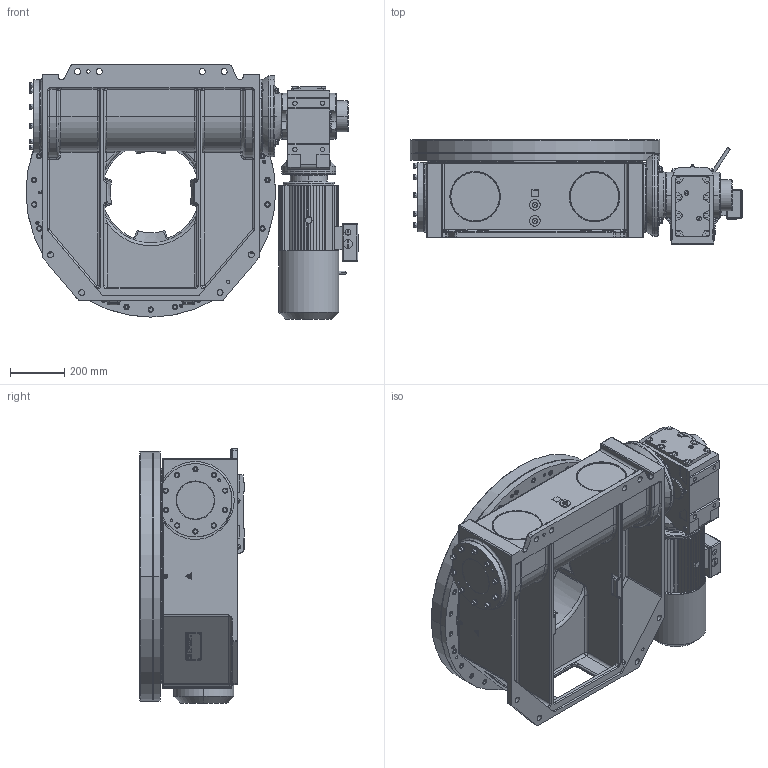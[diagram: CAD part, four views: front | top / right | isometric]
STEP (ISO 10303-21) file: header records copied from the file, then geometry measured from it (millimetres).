
FILE_DESCRIPTION((''),'2;1');
FILE_NAME('A7095','2009-07-08T',('mmueller'),('EXPERT Maschinenbau GmbH'),'PRO/ENGINEER BY PARAMETRIC TECHNOLOGY CORPORATION, 2007390','PRO/ENGINEER BY PARAMETRIC TECHNOLOGY CORPORATION, 2007390','');
FILE_SCHEMA(('CONFIG_CONTROL_DESIGN'));
Products named in the file (1): A7095
Bounding box: 1223.5 x 385 x 938 mm (x, y, z)
Surface area: 5415679.4 mm2 (no closed solid volume)
Topology: 0 solids, 223 shells, 2240 faces, 7736 edges, 5720 vertices
Faces by surface type: plane 1094, cylinder 571, torus 210, cone 208, bspline 129, sphere 28
Entity records: 91102 total; most frequent: CARTESIAN_POINT 25200, DIRECTION 13562, ORIENTED_EDGE 12371, EDGE_CURVE 7691, VERTEX_POINT 5720, AXIS2_PLACEMENT_3D 4548, VECTOR 4466, LINE 4466
